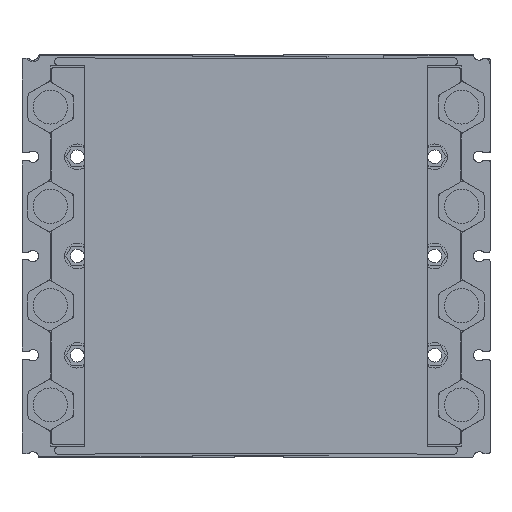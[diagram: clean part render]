
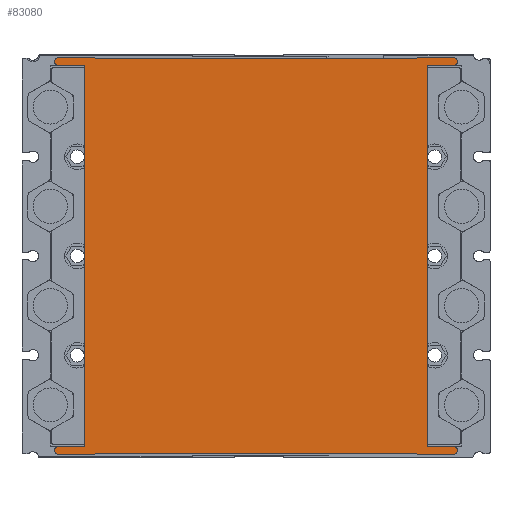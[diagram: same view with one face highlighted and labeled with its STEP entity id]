
A CAD part, front view. The second image highlights one B-rep face of the part: STEP entity #83080.
In plain terms, the highlighted planar face has unit normal (0, -1, 0).
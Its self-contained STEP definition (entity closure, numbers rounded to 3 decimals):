
#13760=DIRECTION('',(-1.,0.,0.));
#13761=VECTOR('',#13760,112.764);
#13762=CARTESIAN_POINT('',(138.882,0.,-1.5));
#13763=LINE('',#13762,#13761);
#14306=DIRECTION('',(1.,0.,0.));
#14307=VECTOR('',#14306,12.);
#14308=CARTESIAN_POINT('',(13.,0.,-141.));
#14309=LINE('',#14308,#14307);
#22639=DIRECTION('',(1.,0.,0.));
#22640=VECTOR('',#22639,9.2);
#22641=CARTESIAN_POINT('',(142.8,0.,-4.));
#22642=LINE('',#22641,#22640);
#22651=CARTESIAN_POINT('',(140.,0.,-2.5));
#22652=DIRECTION('',(0.,1.,0.));
#22653=DIRECTION('',(-0.745,0.,0.667));
#22654=AXIS2_PLACEMENT_3D('',#22651,#22652,#22653);
#22656=CARTESIAN_POINT('',(152.,0.,-2.5));
#22657=DIRECTION('',(0.,1.,0.));
#22658=DIRECTION('',(0.,0.,1.));
#22659=AXIS2_PLACEMENT_3D('',#22656,#22657,#22658);
#22661=DIRECTION('',(0.,0.,-1.));
#22662=VECTOR('',#22661,134.);
#22663=CARTESIAN_POINT('',(142.8,0.,-4.));
#22664=LINE('',#22663,#22662);
#22665=DIRECTION('',(1.,0.,0.));
#22666=VECTOR('',#22665,9.2);
#22667=CARTESIAN_POINT('',(142.8,0.,-138.));
#22668=LINE('',#22667,#22666);
#22669=CARTESIAN_POINT('',(152.,0.,-139.5));
#22670=DIRECTION('',(0.,1.,0.));
#22671=DIRECTION('',(0.,0.,1.));
#22672=AXIS2_PLACEMENT_3D('',#22669,#22670,#22671);
#22674=CARTESIAN_POINT('',(140.,0.,-139.5));
#22675=DIRECTION('',(0.,1.,0.));
#22676=DIRECTION('',(0.,0.,-1.));
#22677=AXIS2_PLACEMENT_3D('',#22674,#22675,#22676);
#22679=DIRECTION('',(-1.,0.,0.));
#22680=VECTOR('',#22679,112.764);
#22681=CARTESIAN_POINT('',(138.882,0.,-140.5));
#22682=LINE('',#22681,#22680);
#22683=CARTESIAN_POINT('',(25.,0.,-139.5));
#22684=DIRECTION('',(0.,1.,0.));
#22685=DIRECTION('',(0.745,0.,-0.667));
#22686=AXIS2_PLACEMENT_3D('',#22683,#22684,#22685);
#22688=CARTESIAN_POINT('',(13.,0.,-139.5));
#22689=DIRECTION('',(0.,1.,0.));
#22690=DIRECTION('',(0.,0.,-1.));
#22691=AXIS2_PLACEMENT_3D('',#22688,#22689,#22690);
#22693=DIRECTION('',(1.,0.,0.));
#22694=VECTOR('',#22693,9.2);
#22695=CARTESIAN_POINT('',(13.,0.,-138.));
#22696=LINE('',#22695,#22694);
#22697=DIRECTION('',(0.,0.,1.));
#22698=VECTOR('',#22697,134.);
#22699=CARTESIAN_POINT('',(22.2,0.,-138.));
#22700=LINE('',#22699,#22698);
#22701=CARTESIAN_POINT('',(13.,0.,-2.5));
#22702=DIRECTION('',(0.,1.,0.));
#22703=DIRECTION('',(0.,0.,-1.));
#22704=AXIS2_PLACEMENT_3D('',#22701,#22702,#22703);
#22706=CARTESIAN_POINT('',(25.,0.,-2.5));
#22707=DIRECTION('',(0.,1.,0.));
#22708=DIRECTION('',(0.,0.,1.));
#22709=AXIS2_PLACEMENT_3D('',#22706,#22707,#22708);
#22719=DIRECTION('',(-1.,0.,0.));
#22720=VECTOR('',#22719,12.);
#22721=CARTESIAN_POINT('',(152.,0.,-1.));
#22722=LINE('',#22721,#22720);
#24182=DIRECTION('',(1.,0.,0.));
#24183=VECTOR('',#24182,12.);
#24184=CARTESIAN_POINT('',(140.,0.,-141.));
#24185=LINE('',#24184,#24183);
#24214=DIRECTION('',(1.,0.,0.));
#24215=VECTOR('',#24214,9.2);
#24216=CARTESIAN_POINT('',(13.,0.,-4.));
#24217=LINE('',#24216,#24215);
#25659=DIRECTION('',(-1.,0.,0.));
#25660=VECTOR('',#25659,12.);
#25661=CARTESIAN_POINT('',(25.,0.,-1.));
#25662=LINE('',#25661,#25660);
#56887=CARTESIAN_POINT('',(22.2,0.,-138.));
#56888=CARTESIAN_POINT('',(22.2,0.,-4.));
#56889=VERTEX_POINT('',#56887);
#56890=VERTEX_POINT('',#56888);
#58400=CARTESIAN_POINT('',(138.882,0.,-140.5));
#58401=CARTESIAN_POINT('',(26.118,0.,-140.5));
#58402=VERTEX_POINT('',#58400);
#58403=VERTEX_POINT('',#58401);
#62397=CARTESIAN_POINT('',(142.8,0.,-138.));
#62398=VERTEX_POINT('',#62397);
#62401=CARTESIAN_POINT('',(138.882,0.,-1.5));
#62402=CARTESIAN_POINT('',(140.,0.,-1.));
#62403=VERTEX_POINT('',#62401);
#62404=VERTEX_POINT('',#62402);
#62405=CARTESIAN_POINT('',(152.,0.,-1.));
#62406=VERTEX_POINT('',#62405);
#62407=CARTESIAN_POINT('',(152.,0.,-4.));
#62408=VERTEX_POINT('',#62407);
#62409=CARTESIAN_POINT('',(142.8,0.,-4.));
#62410=VERTEX_POINT('',#62409);
#62411=CARTESIAN_POINT('',(152.,0.,-138.));
#62412=VERTEX_POINT('',#62411);
#62413=CARTESIAN_POINT('',(152.,0.,-141.));
#62414=VERTEX_POINT('',#62413);
#62415=CARTESIAN_POINT('',(140.,0.,-141.));
#62416=VERTEX_POINT('',#62415);
#62417=CARTESIAN_POINT('',(25.,0.,-141.));
#62418=VERTEX_POINT('',#62417);
#62419=CARTESIAN_POINT('',(13.,0.,-141.));
#62420=VERTEX_POINT('',#62419);
#62421=CARTESIAN_POINT('',(13.,0.,-138.));
#62422=VERTEX_POINT('',#62421);
#62423=CARTESIAN_POINT('',(13.,0.,-4.));
#62424=VERTEX_POINT('',#62423);
#62425=CARTESIAN_POINT('',(13.,0.,-1.));
#62426=VERTEX_POINT('',#62425);
#62427=CARTESIAN_POINT('',(25.,0.,-1.));
#62428=VERTEX_POINT('',#62427);
#62429=CARTESIAN_POINT('',(26.118,0.,-1.5));
#62430=VERTEX_POINT('',#62429);
#83042=CARTESIAN_POINT('',(82.5,0.,-71.));
#83043=DIRECTION('',(0.,1.,0.));
#83044=DIRECTION('',(0.,0.,-1.));
#83045=AXIS2_PLACEMENT_3D('',#83042,#83043,#83044);
#83046=PLANE('',#83045);
#83047=ORIENTED_EDGE('',*,*,#71275,.F.);
#83049=ORIENTED_EDGE('',*,*,#83048,.T.);
#83051=ORIENTED_EDGE('',*,*,#83050,.F.);
#83053=ORIENTED_EDGE('',*,*,#83052,.T.);
#83054=ORIENTED_EDGE('',*,*,#83031,.F.);
#83055=ORIENTED_EDGE('',*,*,#82790,.T.);
#83057=ORIENTED_EDGE('',*,*,#83056,.T.);
#83059=ORIENTED_EDGE('',*,*,#83058,.T.);
#83061=ORIENTED_EDGE('',*,*,#83060,.F.);
#83063=ORIENTED_EDGE('',*,*,#83062,.T.);
#83064=ORIENTED_EDGE('',*,*,#71638,.T.);
#83065=ORIENTED_EDGE('',*,*,#71654,.T.);
#83066=ORIENTED_EDGE('',*,*,#71667,.F.);
#83067=ORIENTED_EDGE('',*,*,#71681,.T.);
#83068=ORIENTED_EDGE('',*,*,#71694,.T.);
#83069=ORIENTED_EDGE('',*,*,#71714,.T.);
#83071=ORIENTED_EDGE('',*,*,#83070,.F.);
#83073=ORIENTED_EDGE('',*,*,#83072,.T.);
#83075=ORIENTED_EDGE('',*,*,#83074,.F.);
#83077=ORIENTED_EDGE('',*,*,#83076,.T.);
#83078=EDGE_LOOP('',(#83047,#83049,#83051,#83053,#83054,#83055,#83057,#83059,
#83061,#83063,#83064,#83065,#83066,#83067,#83068,#83069,#83071,#83073,#83075,
#83077));
#83079=FACE_OUTER_BOUND('',#83078,.F.);
#83080=ADVANCED_FACE('',(#83079),#83046,.F.);
#22655=CIRCLE('',#22654,1.5);
#22660=CIRCLE('',#22659,1.5);
#22673=CIRCLE('',#22672,1.5);
#22678=CIRCLE('',#22677,1.5);
#22687=CIRCLE('',#22686,1.5);
#22692=CIRCLE('',#22691,1.5);
#22705=CIRCLE('',#22704,1.5);
#22710=CIRCLE('',#22709,1.5);
#71275=EDGE_CURVE('',#62403,#62430,#13763,.T.);
#71638=EDGE_CURVE('',#58402,#58403,#22682,.T.);
#71654=EDGE_CURVE('',#58403,#62418,#22687,.T.);
#71667=EDGE_CURVE('',#62420,#62418,#14309,.T.);
#71681=EDGE_CURVE('',#62420,#62422,#22692,.T.);
#71694=EDGE_CURVE('',#62422,#56889,#22696,.T.);
#71714=EDGE_CURVE('',#56889,#56890,#22700,.T.);
#82790=EDGE_CURVE('',#62410,#62398,#22664,.T.);
#83031=EDGE_CURVE('',#62410,#62408,#22642,.T.);
#83048=EDGE_CURVE('',#62403,#62404,#22655,.T.);
#83050=EDGE_CURVE('',#62406,#62404,#22722,.T.);
#83052=EDGE_CURVE('',#62406,#62408,#22660,.T.);
#83056=EDGE_CURVE('',#62398,#62412,#22668,.T.);
#83058=EDGE_CURVE('',#62412,#62414,#22673,.T.);
#83060=EDGE_CURVE('',#62416,#62414,#24185,.T.);
#83062=EDGE_CURVE('',#62416,#58402,#22678,.T.);
#83070=EDGE_CURVE('',#62424,#56890,#24217,.T.);
#83072=EDGE_CURVE('',#62424,#62426,#22705,.T.);
#83074=EDGE_CURVE('',#62428,#62426,#25662,.T.);
#83076=EDGE_CURVE('',#62428,#62430,#22710,.T.);
